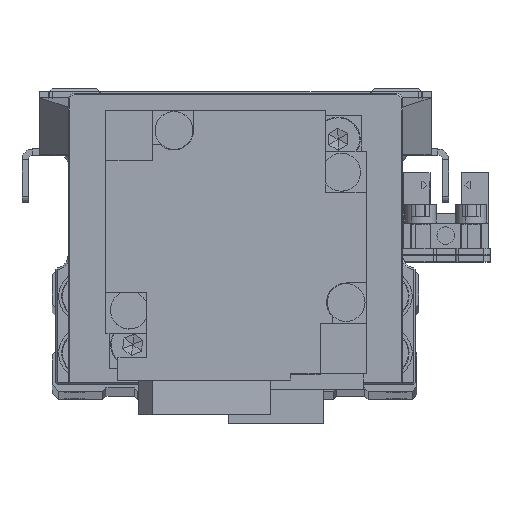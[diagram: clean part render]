
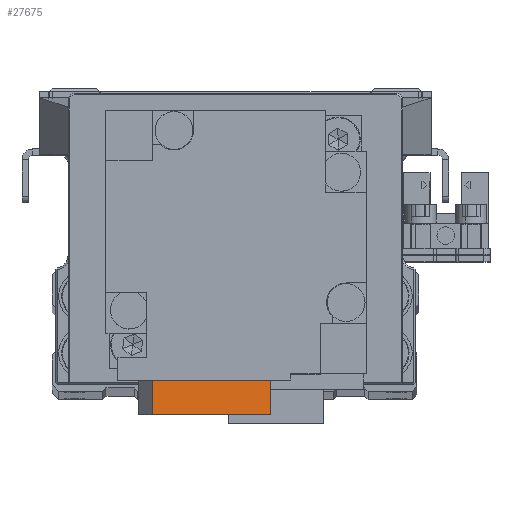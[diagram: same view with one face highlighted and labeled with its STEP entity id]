
A CAD part, top view. The second image highlights one B-rep face of the part: STEP entity #27675.
In plain terms, the highlighted planar face has unit normal (0.156, 0, 0.988) as drawn and (-0.156, 0, -0.988) by its records, which use the part's own axes.
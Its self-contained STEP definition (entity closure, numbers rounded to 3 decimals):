
#483 = VERTEX_POINT ( 'NONE', #18072 ) ;
#959 = CARTESIAN_POINT ( 'NONE',  ( 3.8, -27.5, -77.61 ) ) ;
#964 = VECTOR ( 'NONE', #30583, 1000. ) ;
#1322 = CARTESIAN_POINT ( 'NONE',  ( 13.183, -27.5, -79.096 ) ) ;
#3299 = CARTESIAN_POINT ( 'NONE',  ( -5.583, -22., -76.124 ) ) ;
#5473 = LINE ( 'NONE', #18022, #964 ) ;
#6205 = EDGE_LOOP ( 'NONE', ( #34950, #29650, #33922, #27671 ) ) ;
#7391 = AXIS2_PLACEMENT_3D ( 'NONE', #12006, #24571, #37142 ) ;
#7532 = VERTEX_POINT ( 'NONE', #34419 ) ;
#10676 = EDGE_CURVE ( 'NONE', #22818, #24920, #29152, .T. ) ;
#11401 = CARTESIAN_POINT ( 'NONE',  ( -5.583, -24.75, -76.124 ) ) ;
#12006 = CARTESIAN_POINT ( 'NONE',  ( 3.8, -24.75, -77.61 ) ) ;
#13506 = DIRECTION ( 'NONE',  ( 0.988, 0., -0.156 ) ) ;
#15854 = DIRECTION ( 'NONE',  ( 0.988, 0., -0.156 ) ) ;
#17846 = CARTESIAN_POINT ( 'NONE',  ( -5.583, -27.5, -76.124 ) ) ;
#18022 = CARTESIAN_POINT ( 'NONE',  ( 13.183, -24.75, -79.096 ) ) ;
#18072 = CARTESIAN_POINT ( 'NONE',  ( -5.583, -22., -76.124 ) ) ;
#22715 = VECTOR ( 'NONE', #15854, 1000. ) ;
#22818 = VERTEX_POINT ( 'NONE', #17846 ) ;
#23946 = DIRECTION ( 'NONE',  ( 0., -1., 0. ) ) ;
#24571 = DIRECTION ( 'NONE',  ( 0.156, 0., 0.988 ) ) ;
#24920 = VERTEX_POINT ( 'NONE', #1322 ) ;
#27654 = FACE_OUTER_BOUND ( 'NONE', #6205, .T. ) ;
#27671 = ORIENTED_EDGE ( 'NONE', *, *, #33638, .T. ) ;
#27675 = ADVANCED_FACE ( 'NONE', ( #27654 ), #40240, .F. ) ;
#28339 = VECTOR ( 'NONE', #13506, 1000. ) ;
#29152 = LINE ( 'NONE', #959, #28339 ) ;
#29650 = ORIENTED_EDGE ( 'NONE', *, *, #10676, .F. ) ;
#30583 = DIRECTION ( 'NONE',  ( 0., 1., 0. ) ) ;
#31073 = EDGE_CURVE ( 'NONE', #24920, #7532, #5473, .T. ) ;
#31492 = LINE ( 'NONE', #3299, #22715 ) ;
#32715 = EDGE_CURVE ( 'NONE', #483, #22818, #39616, .T. ) ;
#33638 = EDGE_CURVE ( 'NONE', #483, #7532, #31492, .T. ) ;
#33818 = VECTOR ( 'NONE', #23946, 1000. ) ;
#33922 = ORIENTED_EDGE ( 'NONE', *, *, #32715, .F. ) ;
#34419 = CARTESIAN_POINT ( 'NONE',  ( 13.183, -22., -79.096 ) ) ;
#34950 = ORIENTED_EDGE ( 'NONE', *, *, #31073, .F. ) ;
#37142 = DIRECTION ( 'NONE',  ( 0.988, 0., -0.156 ) ) ;
#39616 = LINE ( 'NONE', #11401, #33818 ) ;
#40240 = PLANE ( 'NONE',  #7391 ) ;
